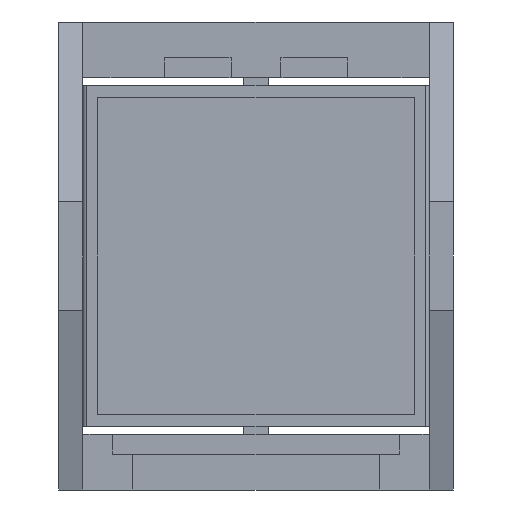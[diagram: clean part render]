
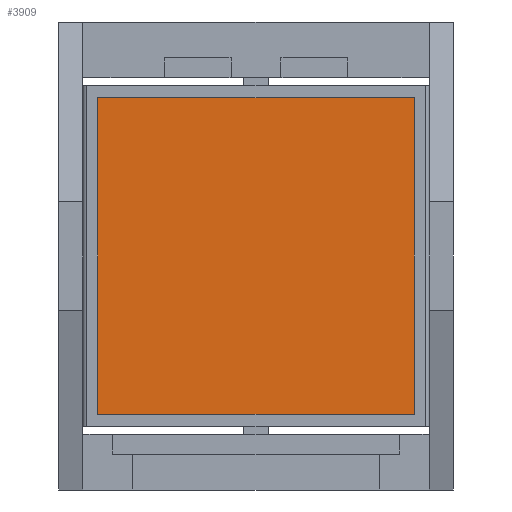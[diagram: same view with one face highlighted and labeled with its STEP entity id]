
A CAD part, front view. The second image highlights one B-rep face of the part: STEP entity #3909.
In plain terms, the highlighted planar face has unit normal (0, -1, 0).
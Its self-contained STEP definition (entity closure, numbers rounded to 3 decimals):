
#24 = VECTOR ( 'NONE', #480, 1000. ) ;
#480 = DIRECTION ( 'NONE',  ( -1., 0., 0. ) ) ;
#834 = VERTEX_POINT ( 'NONE', #3660 ) ;
#1139 = DIRECTION ( 'NONE',  ( 0., 1., 0. ) ) ;
#1146 = AXIS2_PLACEMENT_3D ( 'NONE', #2516, #1139, #4580 ) ;
#1333 = VECTOR ( 'NONE', #4783, 1000. ) ;
#1478 = CARTESIAN_POINT ( 'NONE',  ( 12.524, -1.976, 9.179 ) ) ;
#1870 = ORIENTED_EDGE ( 'NONE', *, *, #5576, .F. ) ;
#2319 = VERTEX_POINT ( 'NONE', #4762 ) ;
#2508 = VERTEX_POINT ( 'NONE', #1478 ) ;
#2516 = CARTESIAN_POINT ( 'NONE',  ( -6.476, -1.976, 9.179 ) ) ;
#2593 = DIRECTION ( 'NONE',  ( 0., 0., -1. ) ) ;
#2649 = LINE ( 'NONE', #3490, #4888 ) ;
#2671 = EDGE_CURVE ( 'NONE', #834, #2319, #5265, .T. ) ;
#2762 = EDGE_CURVE ( 'NONE', #3649, #2508, #2649, .T. ) ;
#3064 = ORIENTED_EDGE ( 'NONE', *, *, #2762, .F. ) ;
#3083 = ORIENTED_EDGE ( 'NONE', *, *, #4021, .F. ) ;
#3302 = PLANE ( 'NONE',  #1146 ) ;
#3364 = ORIENTED_EDGE ( 'NONE', *, *, #2671, .F. ) ;
#3490 = CARTESIAN_POINT ( 'NONE',  ( -6.476, -1.976, 9.179 ) ) ;
#3492 = LINE ( 'NONE', #5211, #3565 ) ;
#3565 = VECTOR ( 'NONE', #2593, 1000. ) ;
#3649 = VERTEX_POINT ( 'NONE', #3801 ) ;
#3660 = CARTESIAN_POINT ( 'NONE',  ( 12.524, -1.976, -9.821 ) ) ;
#3745 = FACE_OUTER_BOUND ( 'NONE', #5567, .T. ) ;
#3801 = CARTESIAN_POINT ( 'NONE',  ( -6.476, -1.976, 9.179 ) ) ;
#3909 = ADVANCED_FACE ( 'NONE', ( #3745 ), #3302, .F. ) ;
#4021 = EDGE_CURVE ( 'NONE', #2508, #834, #3492, .T. ) ;
#4335 = CARTESIAN_POINT ( 'NONE',  ( -6.476, -1.976, -9.821 ) ) ;
#4377 = LINE ( 'NONE', #4891, #1333 ) ;
#4580 = DIRECTION ( 'NONE',  ( 0., 0., 1. ) ) ;
#4762 = CARTESIAN_POINT ( 'NONE',  ( -6.476, -1.976, -9.821 ) ) ;
#4783 = DIRECTION ( 'NONE',  ( 0., 0., 1. ) ) ;
#4789 = DIRECTION ( 'NONE',  ( 1., 0., 0. ) ) ;
#4888 = VECTOR ( 'NONE', #4789, 1000. ) ;
#4891 = CARTESIAN_POINT ( 'NONE',  ( -6.476, -1.976, -9.821 ) ) ;
#5211 = CARTESIAN_POINT ( 'NONE',  ( 12.524, -1.976, -9.821 ) ) ;
#5265 = LINE ( 'NONE', #4335, #24 ) ;
#5567 = EDGE_LOOP ( 'NONE', ( #1870, #3364, #3083, #3064 ) ) ;
#5576 = EDGE_CURVE ( 'NONE', #2319, #3649, #4377, .T. ) ;
